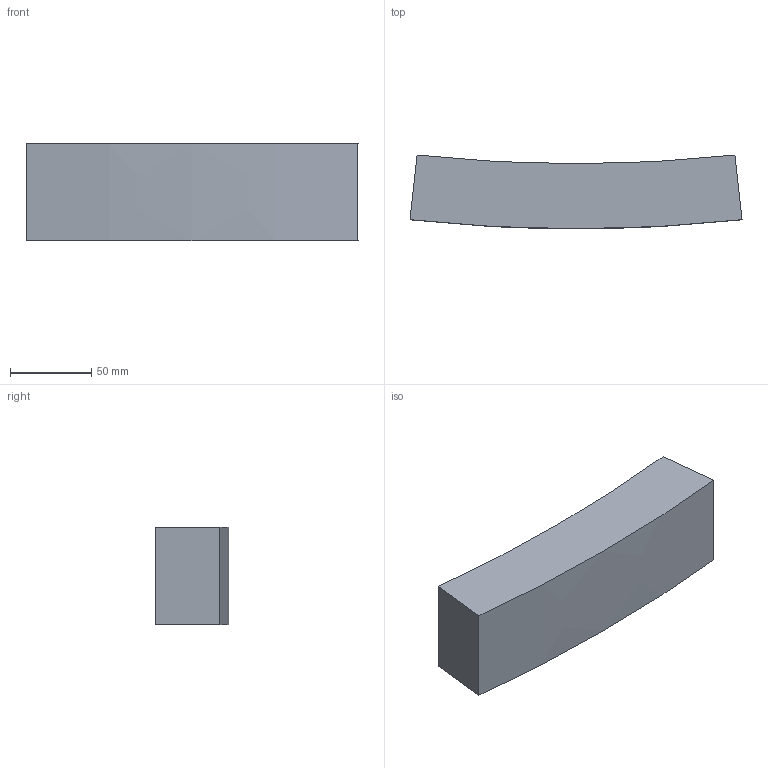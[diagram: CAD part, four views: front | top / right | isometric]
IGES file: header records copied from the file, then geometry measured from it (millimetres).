
Start section:  PTC IGES file: d160-1600_fixbloc_d900_pk-01.igs
Global section: file name: d160-1600_fixbloc_d900_pk-01.igs; native system: Creo Parametric by PTC Inc.; preprocessor: 2019030; author: demmerls; organization: Unknown; date: 20200928.094002; units: millimetre
Bounding box: 204.24 x 45.33 x 60 mm (x, y, z)
Surface area: 44858.8 mm2 (no closed solid volume)
Topology: 0 solids, 0 shells, 6 faces, 24 edges, 24 vertices
Faces by surface type: bspline 6
